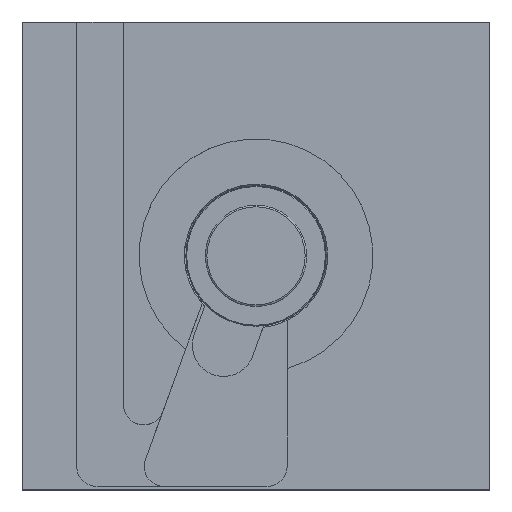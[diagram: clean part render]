
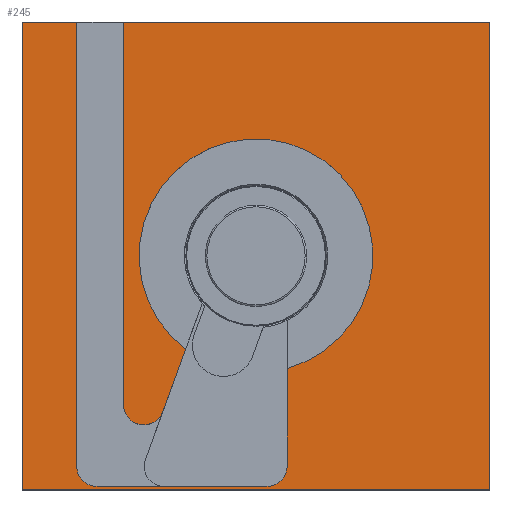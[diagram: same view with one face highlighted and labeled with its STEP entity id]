
A CAD part, top view. The second image highlights one B-rep face of the part: STEP entity #245.
In plain terms, the highlighted planar face has unit normal (0, 0, 1).
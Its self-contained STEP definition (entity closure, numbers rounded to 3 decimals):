
#245 = ADVANCED_FACE( '', ( #564 ), #565, .T. );
#564 = FACE_OUTER_BOUND( '', #1008, .T. );
#565 = PLANE( '', #1009 );
#1008 = EDGE_LOOP( '', ( #1554, #1555, #1556, #1557, #1558, #1559, #1560, #1561, #1562, #1563, #1564, #1565, #1566, #1567, #1568 ) );
#1009 = AXIS2_PLACEMENT_3D( '', #1569, #1570, #1571 );
#1554 = ORIENTED_EDGE( '', *, *, #2182, .T. );
#1555 = ORIENTED_EDGE( '', *, *, #2290, .T. );
#1556 = ORIENTED_EDGE( '', *, *, #2291, .F. );
#1557 = ORIENTED_EDGE( '', *, *, #2246, .T. );
#1558 = ORIENTED_EDGE( '', *, *, #2292, .T. );
#1559 = ORIENTED_EDGE( '', *, *, #2293, .T. );
#1560 = ORIENTED_EDGE( '', *, *, #2294, .T. );
#1561 = ORIENTED_EDGE( '', *, *, #2295, .T. );
#1562 = ORIENTED_EDGE( '', *, *, #2296, .T. );
#1563 = ORIENTED_EDGE( '', *, *, #2195, .T. );
#1564 = ORIENTED_EDGE( '', *, *, #2297, .T. );
#1565 = ORIENTED_EDGE( '', *, *, #2187, .T. );
#1566 = ORIENTED_EDGE( '', *, *, #2298, .T. );
#1567 = ORIENTED_EDGE( '', *, *, #2199, .T. );
#1568 = ORIENTED_EDGE( '', *, *, #2299, .T. );
#1569 = CARTESIAN_POINT( '', ( -150., -150., 0. ) );
#1570 = DIRECTION( '', ( 0., 0., 1. ) );
#1571 = DIRECTION( '', ( 0., -1., 0. ) );
#2182 = EDGE_CURVE( '', #2514, #2518, #2520, .T. );
#2187 = EDGE_CURVE( '', #2527, #2528, #2529, .T. );
#2195 = EDGE_CURVE( '', #2541, #2542, #2543, .T. );
#2199 = EDGE_CURVE( '', #2550, #2548, #2551, .T. );
#2246 = EDGE_CURVE( '', #2623, #2629, #2631, .T. );
#2290 = EDGE_CURVE( '', #2518, #2698, #2699, .T. );
#2291 = EDGE_CURVE( '', #2623, #2698, #2700, .T. );
#2292 = EDGE_CURVE( '', #2629, #2701, #2702, .F. );
#2293 = EDGE_CURVE( '', #2701, #2703, #2704, .T. );
#2294 = EDGE_CURVE( '', #2703, #2705, #2706, .T. );
#2295 = EDGE_CURVE( '', #2705, #2707, #2708, .F. );
#2296 = EDGE_CURVE( '', #2707, #2541, #2709, .T. );
#2297 = EDGE_CURVE( '', #2542, #2527, #2710, .T. );
#2298 = EDGE_CURVE( '', #2528, #2550, #2711, .T. );
#2299 = EDGE_CURVE( '', #2548, #2514, #2712, .T. );
#2514 = VERTEX_POINT( '', #3092 );
#2518 = VERTEX_POINT( '', #3097 );
#2520 = CIRCLE( '', #3100, 13. );
#2527 = VERTEX_POINT( '', #3107 );
#2528 = VERTEX_POINT( '', #3108 );
#2529 = LINE( '', #3109, #3110 );
#2541 = VERTEX_POINT( '', #3125 );
#2542 = VERTEX_POINT( '', #3126 );
#2543 = LINE( '', #3127, #3128 );
#2548 = VERTEX_POINT( '', #3135 );
#2550 = VERTEX_POINT( '', #3138 );
#2551 = LINE( '', #3139, #3140 );
#2623 = VERTEX_POINT( '', #3219 );
#2629 = VERTEX_POINT( '', #3228 );
#2631 = LINE( '', #3231, #3232 );
#2698 = VERTEX_POINT( '', #3396 );
#2699 = LINE( '', #3397, #3398 );
#2700 = CIRCLE( '', #3399, 75. );
#2701 = VERTEX_POINT( '', #3400 );
#2702 = CIRCLE( '', #3401, 13. );
#2703 = VERTEX_POINT( '', #3402 );
#2704 = LINE( '', #3403, #3404 );
#2705 = VERTEX_POINT( '', #3405 );
#2706 = LINE( '', #3406, #3407 );
#2707 = VERTEX_POINT( '', #3408 );
#2708 = CIRCLE( '', #3409, 13. );
#2709 = LINE( '', #3410, #3411 );
#2710 = LINE( '', #3412, #3413 );
#2711 = LINE( '', #3414, #3415 );
#2712 = LINE( '', #3416, #3417 );
#3092 = CARTESIAN_POINT( '', ( -85., -95.485, 0. ) );
#3097 = CARTESIAN_POINT( '', ( -59.784, -99.931, 0. ) );
#3100 = AXIS2_PLACEMENT_3D( '', #3971, #3972, #3973 );
#3107 = CARTESIAN_POINT( '', ( -150., -150., 0. ) );
#3108 = CARTESIAN_POINT( '', ( 150., -150., 0. ) );
#3109 = CARTESIAN_POINT( '', ( -150., -150., 0. ) );
#3110 = VECTOR( '', #3980, 1000. );
#3125 = CARTESIAN_POINT( '', ( -115., 150., 0. ) );
#3126 = CARTESIAN_POINT( '', ( -150., 150., 0. ) );
#3127 = CARTESIAN_POINT( '', ( 150., 150., 0. ) );
#3128 = VECTOR( '', #3990, 1000. );
#3135 = CARTESIAN_POINT( '', ( -85., 150., 0. ) );
#3138 = CARTESIAN_POINT( '', ( 150., 150., 0. ) );
#3139 = CARTESIAN_POINT( '', ( 150., 150., 0. ) );
#3140 = VECTOR( '', #3994, 1000. );
#3219 = CARTESIAN_POINT( '', ( 20., -72.284, 0. ) );
#3228 = CARTESIAN_POINT( '', ( 20., -135., 0. ) );
#3231 = CARTESIAN_POINT( '', ( 20., -150., 0. ) );
#3232 = VECTOR( '', #4075, 1000. );
#3396 = CARTESIAN_POINT( '', ( -45.196, -59.852, 0. ) );
#3397 = CARTESIAN_POINT( '', ( -86.429, -173.138, 0. ) );
#3398 = VECTOR( '', #4119, 1000. );
#3399 = AXIS2_PLACEMENT_3D( '', #4120, #4121, #4122 );
#3400 = CARTESIAN_POINT( '', ( 7., -148., 0. ) );
#3401 = AXIS2_PLACEMENT_3D( '', #4123, #4124, #4125 );
#3402 = CARTESIAN_POINT( '', ( -58.714, -148., 0. ) );
#3403 = CARTESIAN_POINT( '', ( -150., -148., 0. ) );
#3404 = VECTOR( '', #4126, 1000. );
#3405 = CARTESIAN_POINT( '', ( -102., -148., 0. ) );
#3406 = CARTESIAN_POINT( '', ( -150., -148., 0. ) );
#3407 = VECTOR( '', #4127, 1000. );
#3408 = CARTESIAN_POINT( '', ( -115., -135., 0. ) );
#3409 = AXIS2_PLACEMENT_3D( '', #4128, #4129, #4130 );
#3410 = CARTESIAN_POINT( '', ( -115., -150., 0. ) );
#3411 = VECTOR( '', #4131, 1000. );
#3412 = CARTESIAN_POINT( '', ( -150., 150., 0. ) );
#3413 = VECTOR( '', #4132, 1000. );
#3414 = CARTESIAN_POINT( '', ( 150., -150., 0. ) );
#3415 = VECTOR( '', #4133, 1000. );
#3416 = CARTESIAN_POINT( '', ( -85., -150., 0. ) );
#3417 = VECTOR( '', #4134, 1000. );
#3971 = CARTESIAN_POINT( '', ( -72., -95.485, 0. ) );
#3972 = DIRECTION( '', ( 0., 0., 1. ) );
#3973 = DIRECTION( '', ( 1., 0., 0. ) );
#3980 = DIRECTION( '', ( 1., 0., 0. ) );
#3990 = DIRECTION( '', ( -1., 0., 0. ) );
#3994 = DIRECTION( '', ( -1., 0., 0. ) );
#4075 = DIRECTION( '', ( 0., -1., 0. ) );
#4119 = DIRECTION( '', ( 0.342, 0.94, 0. ) );
#4120 = CARTESIAN_POINT( '', ( 0., 0., 0. ) );
#4121 = DIRECTION( '', ( 0., 0., 1. ) );
#4122 = DIRECTION( '', ( 1., 0., 0. ) );
#4123 = CARTESIAN_POINT( '', ( 7., -135., 0. ) );
#4124 = DIRECTION( '', ( 0., 0., 1. ) );
#4125 = DIRECTION( '', ( 1., 0., 0. ) );
#4126 = DIRECTION( '', ( -1., 0., 0. ) );
#4127 = DIRECTION( '', ( -1., 0., 0. ) );
#4128 = CARTESIAN_POINT( '', ( -102., -135., 0. ) );
#4129 = DIRECTION( '', ( 0., 0., 1. ) );
#4130 = DIRECTION( '', ( 1., 0., 0. ) );
#4131 = DIRECTION( '', ( 0., 1., 0. ) );
#4132 = DIRECTION( '', ( 0., -1., 0. ) );
#4133 = DIRECTION( '', ( 0., 1., 0. ) );
#4134 = DIRECTION( '', ( 0., -1., 0. ) );
